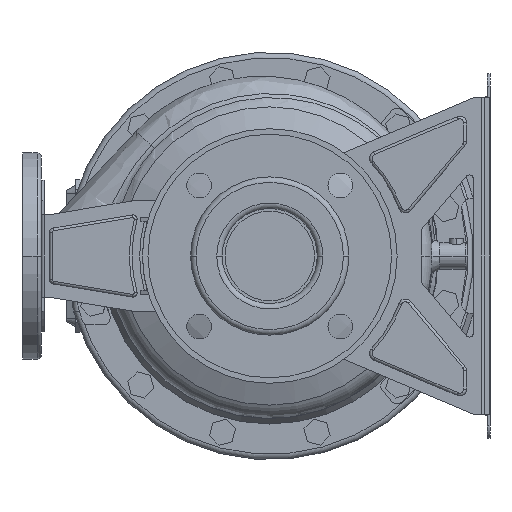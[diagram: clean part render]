
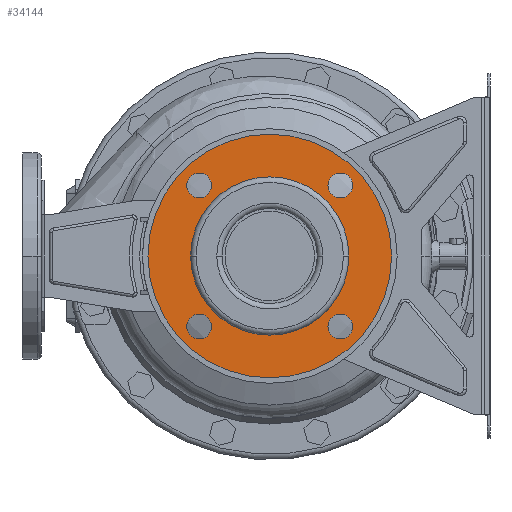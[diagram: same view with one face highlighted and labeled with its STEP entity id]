
A CAD part, front view. The second image highlights one B-rep face of the part: STEP entity #34144.
In plain terms, the highlighted planar face has unit normal (0, -1, 0) as drawn and (-1, 0, 0) by its records, which use the part's own axes.
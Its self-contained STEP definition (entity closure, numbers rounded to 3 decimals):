
#33477=CARTESIAN_POINT('',(12.,0.,0.));
#33478=DIRECTION('',(-1.,0.,0.));
#33479=DIRECTION('',(0.,1.,0.));
#33480=AXIS2_PLACEMENT_3D('',#33477,#33478,#33479);
#33485=CARTESIAN_POINT('',(12.,0.,0.));
#33486=DIRECTION('',(1.,0.,0.));
#33487=DIRECTION('',(0.,1.,0.));
#33488=AXIS2_PLACEMENT_3D('',#33485,#33486,#33487);
#33493=CARTESIAN_POINT('',(12.,-51.265,51.265));
#33494=DIRECTION('',(1.,0.,0.));
#33495=DIRECTION('',(0.,1.,0.));
#33496=AXIS2_PLACEMENT_3D('',#33493,#33494,#33495);
#33501=CARTESIAN_POINT('',(12.,-51.265,51.265));
#33502=DIRECTION('',(1.,0.,0.));
#33503=DIRECTION('',(0.,-1.,0.));
#33504=AXIS2_PLACEMENT_3D('',#33501,#33502,#33503);
#33509=CARTESIAN_POINT('',(12.,-51.265,-51.265));
#33510=DIRECTION('',(1.,0.,0.));
#33511=DIRECTION('',(0.,0.,1.));
#33512=AXIS2_PLACEMENT_3D('',#33509,#33510,#33511);
#33517=CARTESIAN_POINT('',(12.,-51.265,-51.265));
#33518=DIRECTION('',(1.,0.,0.));
#33519=DIRECTION('',(0.,0.,-1.));
#33520=AXIS2_PLACEMENT_3D('',#33517,#33518,#33519);
#33525=CARTESIAN_POINT('',(12.,51.265,-51.265));
#33526=DIRECTION('',(1.,0.,0.));
#33527=DIRECTION('',(0.,-1.,0.));
#33528=AXIS2_PLACEMENT_3D('',#33525,#33526,#33527);
#33533=CARTESIAN_POINT('',(12.,51.265,-51.265));
#33534=DIRECTION('',(1.,0.,0.));
#33535=DIRECTION('',(0.,1.,0.));
#33536=AXIS2_PLACEMENT_3D('',#33533,#33534,#33535);
#33541=CARTESIAN_POINT('',(12.,51.265,51.265));
#33542=DIRECTION('',(1.,0.,0.));
#33543=DIRECTION('',(0.,0.,-1.));
#33544=AXIS2_PLACEMENT_3D('',#33541,#33542,#33543);
#33549=CARTESIAN_POINT('',(12.,51.265,51.265));
#33550=DIRECTION('',(1.,0.,0.));
#33551=DIRECTION('',(0.,0.,1.));
#33552=AXIS2_PLACEMENT_3D('',#33549,#33550,#33551);
#33557=CARTESIAN_POINT('',(12.,0.,0.));
#33558=DIRECTION('',(1.,0.,0.));
#33559=DIRECTION('',(0.,1.,0.));
#33560=AXIS2_PLACEMENT_3D('',#33557,#33558,#33559);
#33579=CARTESIAN_POINT('',(12.,0.,0.));
#33580=DIRECTION('',(-1.,0.,0.));
#33581=DIRECTION('',(0.,1.,0.));
#33582=AXIS2_PLACEMENT_3D('',#33579,#33580,#33581);
#33744=CARTESIAN_POINT('',(12.,88.5,0.));
#33746=VERTEX_POINT('',#33744);
#33747=CARTESIAN_POINT('',(12.,57.5,0.));
#33749=VERTEX_POINT('',#33747);
#33776=CARTESIAN_POINT('',(12.,-88.5,0.));
#33778=VERTEX_POINT('',#33776);
#33779=CARTESIAN_POINT('',(12.,-57.5,0.));
#33781=VERTEX_POINT('',#33779);
#33791=CARTESIAN_POINT('',(12.,-42.265,51.265));
#33792=CARTESIAN_POINT('',(12.,-60.265,51.265));
#33793=VERTEX_POINT('',#33791);
#33794=VERTEX_POINT('',#33792);
#33799=CARTESIAN_POINT('',(12.,-51.265,-42.265));
#33800=CARTESIAN_POINT('',(12.,-51.265,-60.265));
#33801=VERTEX_POINT('',#33799);
#33802=VERTEX_POINT('',#33800);
#33807=CARTESIAN_POINT('',(12.,42.265,-51.265));
#33808=CARTESIAN_POINT('',(12.,60.265,-51.265));
#33809=VERTEX_POINT('',#33807);
#33810=VERTEX_POINT('',#33808);
#33815=CARTESIAN_POINT('',(12.,51.265,42.265));
#33816=CARTESIAN_POINT('',(12.,51.265,60.265));
#33817=VERTEX_POINT('',#33815);
#33818=VERTEX_POINT('',#33816);
#34105=CARTESIAN_POINT('',(12.,0.,0.));
#34106=DIRECTION('',(1.,0.,0.));
#34107=DIRECTION('',(0.,-1.,0.));
#34108=AXIS2_PLACEMENT_3D('',#34105,#34106,#34107);
#34109=PLANE('',#34108);
#34110=ORIENTED_EDGE('',*,*,#34098,.F.);
#34111=ORIENTED_EDGE('',*,*,#34087,.T.);
#34112=EDGE_LOOP('',(#34110,#34111));
#34113=FACE_OUTER_BOUND('',#34112,.F.);
#34115=ORIENTED_EDGE('',*,*,#34114,.F.);
#34117=ORIENTED_EDGE('',*,*,#34116,.T.);
#34118=EDGE_LOOP('',(#34115,#34117));
#34119=FACE_BOUND('',#34118,.F.);
#34121=ORIENTED_EDGE('',*,*,#34120,.F.);
#34123=ORIENTED_EDGE('',*,*,#34122,.F.);
#34124=EDGE_LOOP('',(#34121,#34123));
#34125=FACE_BOUND('',#34124,.F.);
#34127=ORIENTED_EDGE('',*,*,#34126,.F.);
#34129=ORIENTED_EDGE('',*,*,#34128,.F.);
#34130=EDGE_LOOP('',(#34127,#34129));
#34131=FACE_BOUND('',#34130,.F.);
#34133=ORIENTED_EDGE('',*,*,#34132,.F.);
#34135=ORIENTED_EDGE('',*,*,#34134,.F.);
#34136=EDGE_LOOP('',(#34133,#34135));
#34137=FACE_BOUND('',#34136,.F.);
#34139=ORIENTED_EDGE('',*,*,#34138,.F.);
#34141=ORIENTED_EDGE('',*,*,#34140,.F.);
#34142=EDGE_LOOP('',(#34139,#34141));
#34143=FACE_BOUND('',#34142,.F.);
#33481=CIRCLE('',#33480,88.5);
#33489=CIRCLE('',#33488,88.5);
#33497=CIRCLE('',#33496,9.);
#33505=CIRCLE('',#33504,9.);
#33513=CIRCLE('',#33512,9.);
#33521=CIRCLE('',#33520,9.);
#33529=CIRCLE('',#33528,9.);
#33537=CIRCLE('',#33536,9.);
#33545=CIRCLE('',#33544,9.);
#33553=CIRCLE('',#33552,9.);
#33561=CIRCLE('',#33560,57.5);
#33583=CIRCLE('',#33582,57.5);
#34087=EDGE_CURVE('',#33746,#33778,#33489,.T.);
#34098=EDGE_CURVE('',#33746,#33778,#33481,.T.);
#34114=EDGE_CURVE('',#33749,#33781,#33561,.T.);
#34116=EDGE_CURVE('',#33749,#33781,#33583,.T.);
#34120=EDGE_CURVE('',#33793,#33794,#33497,.T.);
#34122=EDGE_CURVE('',#33794,#33793,#33505,.T.);
#34126=EDGE_CURVE('',#33801,#33802,#33513,.T.);
#34128=EDGE_CURVE('',#33802,#33801,#33521,.T.);
#34132=EDGE_CURVE('',#33809,#33810,#33529,.T.);
#34134=EDGE_CURVE('',#33810,#33809,#33537,.T.);
#34138=EDGE_CURVE('',#33817,#33818,#33545,.T.);
#34140=EDGE_CURVE('',#33818,#33817,#33553,.T.);
#34144=ADVANCED_FACE('',(#34113,#34119,#34125,#34131,#34137,#34143),#34109,.F.);
